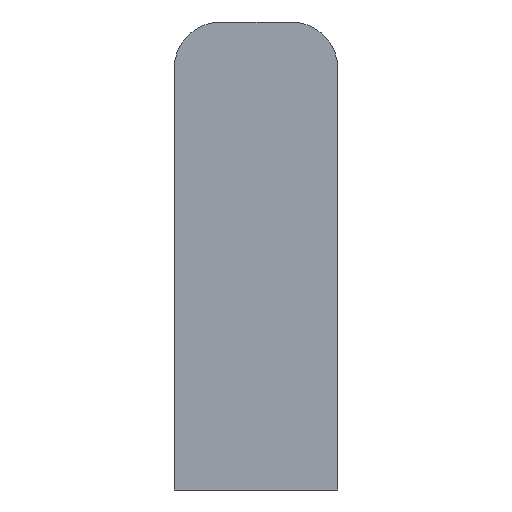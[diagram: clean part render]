
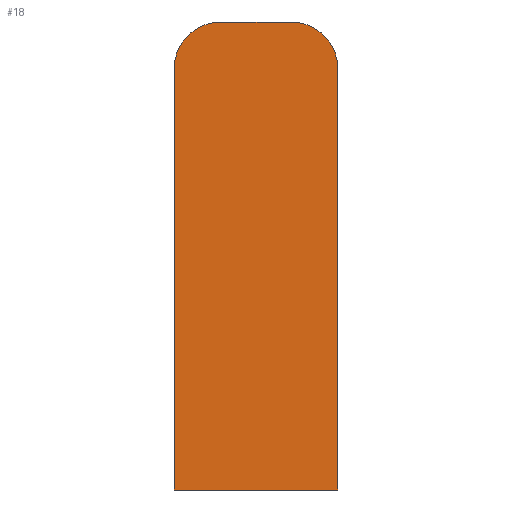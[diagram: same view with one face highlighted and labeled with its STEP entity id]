
A CAD part, front view. The second image highlights one B-rep face of the part: STEP entity #18.
In plain terms, the highlighted planar face has unit normal (0, -1, 0).
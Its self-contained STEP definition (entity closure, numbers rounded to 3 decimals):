
#7 = EDGE_LOOP ( 'NONE', ( #153, #152, #170, #169, #141, #139 ) ) ;
#18 = ADVANCED_FACE ( 'NONE', ( #230 ), #51, .F. ) ;
#19 = VERTEX_POINT ( 'NONE', #59 ) ;
#24 = VERTEX_POINT ( 'NONE', #58 ) ;
#28 = VERTEX_POINT ( 'NONE', #55 ) ;
#31 = VERTEX_POINT ( 'NONE', #66 ) ;
#51 = PLANE ( 'NONE',  #192 ) ;
#54 = CARTESIAN_POINT ( 'NONE',  ( 0., 0., -1.5 ) ) ;
#55 = CARTESIAN_POINT ( 'NONE',  ( 5.25, 0., -16.5 ) ) ;
#58 = CARTESIAN_POINT ( 'NONE',  ( -5.25, 0., -16.5 ) ) ;
#59 = CARTESIAN_POINT ( 'NONE',  ( -2.25, 0., 13.5 ) ) ;
#60 = DIRECTION ( 'NONE',  ( 0., 1., 0. ) ) ;
#61 = DIRECTION ( 'NONE',  ( -1., 0., 0. ) ) ;
#62 = CARTESIAN_POINT ( 'NONE',  ( 5.25, 0., 10.5 ) ) ;
#66 = CARTESIAN_POINT ( 'NONE',  ( -5.25, 0., 10.5 ) ) ;
#69 = CARTESIAN_POINT ( 'NONE',  ( 2.25, 0., 13.5 ) ) ;
#72 = CARTESIAN_POINT ( 'NONE',  ( -5.25, 0., -16.5 ) ) ;
#75 = CARTESIAN_POINT ( 'NONE',  ( -2.25, 0., 10.5 ) ) ;
#76 = DIRECTION ( 'NONE',  ( 0., -1., 0. ) ) ;
#77 = DIRECTION ( 'NONE',  ( -1., 0., 0. ) ) ;
#78 = CARTESIAN_POINT ( 'NONE',  ( 2.25, 0., 13.5 ) ) ;
#79 = DIRECTION ( 'NONE',  ( 0., 0., -1. ) ) ;
#80 = CARTESIAN_POINT ( 'NONE',  ( 5.25, 0., -16.5 ) ) ;
#81 = DIRECTION ( 'NONE',  ( 0., 0., 1. ) ) ;
#86 = CARTESIAN_POINT ( 'NONE',  ( 5.25, 0., -16.5 ) ) ;
#87 = DIRECTION ( 'NONE',  ( -1., 0., 0. ) ) ;
#92 = VERTEX_POINT ( 'NONE', #62 ) ;
#96 = DIRECTION ( 'NONE',  ( 1., 0., 0. ) ) ;
#101 = DIRECTION ( 'NONE',  ( -1., 0., 0. ) ) ;
#104 = DIRECTION ( 'NONE',  ( 0., -1., 0. ) ) ;
#105 = CARTESIAN_POINT ( 'NONE',  ( 2.25, 0., 10.5 ) ) ;
#106 = VERTEX_POINT ( 'NONE', #69 ) ;
#139 = ORIENTED_EDGE ( 'NONE', *, *, #195, .T. ) ;
#141 = ORIENTED_EDGE ( 'NONE', *, *, #179, .T. ) ;
#152 = ORIENTED_EDGE ( 'NONE', *, *, #211, .T. ) ;
#153 = ORIENTED_EDGE ( 'NONE', *, *, #181, .T. ) ;
#169 = ORIENTED_EDGE ( 'NONE', *, *, #178, .T. ) ;
#170 = ORIENTED_EDGE ( 'NONE', *, *, #190, .T. ) ;
#178 = EDGE_CURVE ( 'NONE', #19, #31, #235, .T. ) ;
#179 = EDGE_CURVE ( 'NONE', #31, #24, #234, .T. ) ;
#181 = EDGE_CURVE ( 'NONE', #28, #92, #236, .T. ) ;
#190 = EDGE_CURVE ( 'NONE', #106, #19, #222, .T. ) ;
#192 = AXIS2_PLACEMENT_3D ( 'NONE', #54, #60, #61 ) ;
#195 = EDGE_CURVE ( 'NONE', #24, #28, #232, .T. ) ;
#197 = AXIS2_PLACEMENT_3D ( 'NONE', #75, #76, #77 ) ;
#206 = AXIS2_PLACEMENT_3D ( 'NONE', #105, #104, #101 ) ;
#211 = EDGE_CURVE ( 'NONE', #92, #106, #261, .T. ) ;
#222 = LINE ( 'NONE', #78, #242 ) ;
#230 = FACE_OUTER_BOUND ( 'NONE', #7, .T. ) ;
#231 = VECTOR ( 'NONE', #79, 1000. ) ;
#232 = LINE ( 'NONE', #86, #248 ) ;
#234 = LINE ( 'NONE', #72, #231 ) ;
#235 = CIRCLE ( 'NONE', #197, 3. ) ;
#236 = LINE ( 'NONE', #80, #237 ) ;
#237 = VECTOR ( 'NONE', #81, 1000. ) ;
#242 = VECTOR ( 'NONE', #87, 1000. ) ;
#248 = VECTOR ( 'NONE', #96, 1000. ) ;
#261 = CIRCLE ( 'NONE', #206, 3. ) ;
